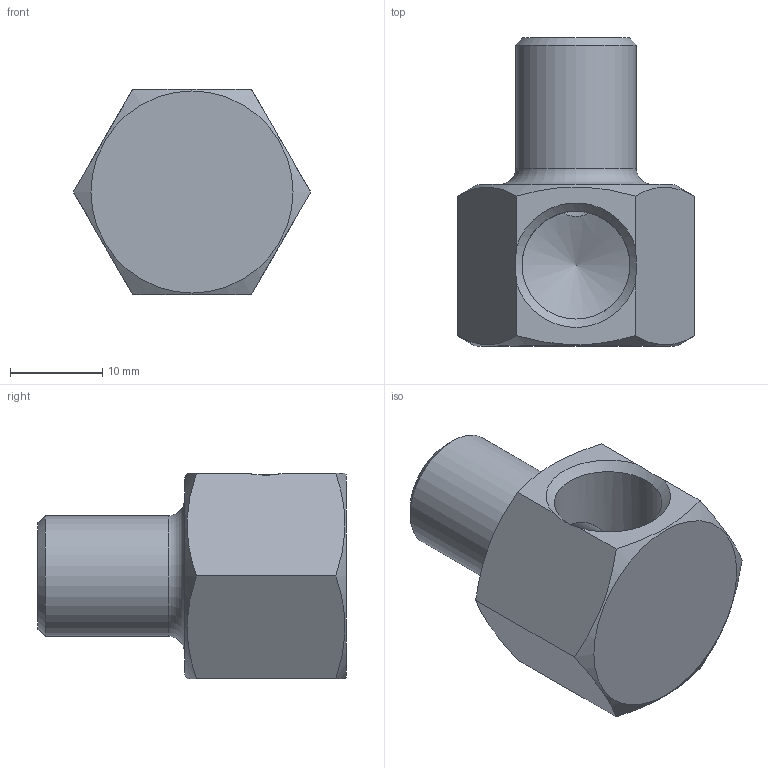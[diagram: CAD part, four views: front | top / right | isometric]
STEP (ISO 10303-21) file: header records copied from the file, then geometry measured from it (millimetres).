
FILE_DESCRIPTION(/* description */ (''),/* implementation_level */ '2;1');
FILE_NAME(/* name */ 'C:/Users/drich/Desktop/M14S-M14SB v1.step',/* time_stamp */ '2019-12-27T18:05:33-06:00',/* author */ (''),/* organization */ (''),/* preprocessor_version */ 'ST-DEVELOPER v18',/* originating_system */ 'Autodesk Translation Framework v8.12.0.6',/* authorisation */ '');
FILE_SCHEMA (('AUTOMOTIVE_DESIGN { 1 0 10303 214 3 1 1 }'));
Length unit declared in the file: inch
Products named in the file (1): M14S-M14SB
Bounding box: 25.66 x 33.32 x 22.23 mm (x, y, z)
Volume: 6681.3 mm3; surface area: 3694.1 mm2
Topology: 1 solids, 1 shells, 20 faces, 55 edges, 36 vertices
Faces by surface type: plane 10, cone 6, cylinder 3, torus 1
Full cylindrical faces by diameter (mm): 8.712 x1, 11.668 x1, 13.032 x1
Entity records: 710 total; most frequent: CARTESIAN_POINT 197, ORIENTED_EDGE 108, DIRECTION 93, EDGE_CURVE 54, AXIS2_PLACEMENT_3D 38, VERTEX_POINT 36, EDGE_LOOP 22, FACE_OUTER_BOUND 20
